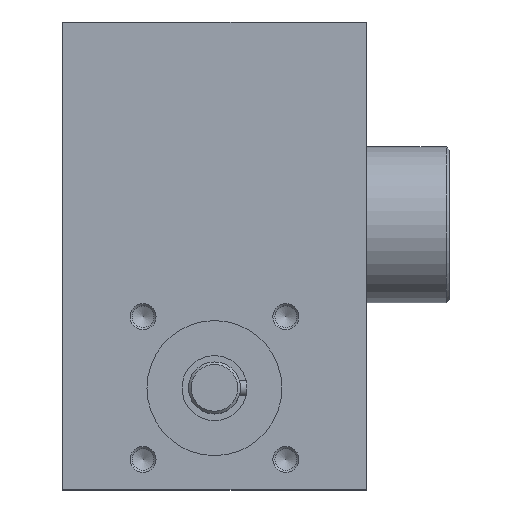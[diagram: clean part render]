
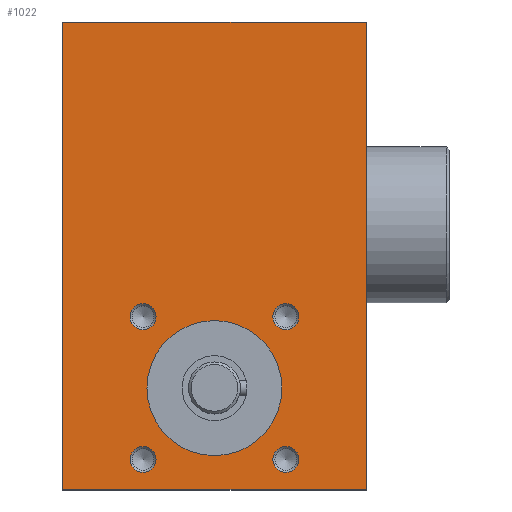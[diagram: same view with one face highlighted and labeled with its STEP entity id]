
A CAD part, top view. The second image highlights one B-rep face of the part: STEP entity #1022.
In plain terms, the highlighted planar face has unit normal (0, 0, 1).
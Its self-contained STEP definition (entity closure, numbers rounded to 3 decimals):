
#71=LINE('',#1619,#99);
#76=LINE('',#1727,#104);
#78=LINE('',#1731,#106);
#79=LINE('',#1732,#107);
#99=VECTOR('',#1256,180.);
#104=VECTOR('',#1393,117.);
#106=VECTOR('',#1397,117.);
#107=VECTOR('',#1398,180.);
#134=PLANE('',#1148);
#181=FACE_BOUND('',#376,.T.);
#182=FACE_BOUND('',#377,.T.);
#183=FACE_BOUND('',#378,.T.);
#184=FACE_BOUND('',#379,.T.);
#185=FACE_BOUND('',#380,.T.);
#254=FACE_OUTER_BOUND('',#375,.T.);
#375=EDGE_LOOP('',(#821,#822,#823,#824));
#376=EDGE_LOOP('',(#825));
#377=EDGE_LOOP('',(#826));
#378=EDGE_LOOP('',(#827));
#379=EDGE_LOOP('',(#828));
#380=EDGE_LOOP('',(#829));
#493=CIRCLE('',#1128,26.);
#503=CIRCLE('',#1149,5.);
#504=CIRCLE('',#1150,5.);
#505=CIRCLE('',#1151,5.);
#506=CIRCLE('',#1152,5.);
#546=VERTEX_POINT('',#1616);
#547=VERTEX_POINT('',#1618);
#572=VERTEX_POINT('',#1691);
#584=VERTEX_POINT('',#1726);
#585=VERTEX_POINT('',#1730);
#586=VERTEX_POINT('',#1733);
#587=VERTEX_POINT('',#1735);
#588=VERTEX_POINT('',#1737);
#589=VERTEX_POINT('',#1739);
#641=EDGE_CURVE('',#547,#546,#71,.T.);
#667=EDGE_CURVE('',#572,#572,#493,.T.);
#680=EDGE_CURVE('',#584,#547,#76,.T.);
#682=EDGE_CURVE('',#546,#585,#78,.T.);
#683=EDGE_CURVE('',#585,#584,#79,.T.);
#684=EDGE_CURVE('',#586,#586,#503,.T.);
#685=EDGE_CURVE('',#587,#587,#504,.T.);
#686=EDGE_CURVE('',#588,#588,#505,.T.);
#687=EDGE_CURVE('',#589,#589,#506,.T.);
#821=ORIENTED_EDGE('',*,*,#641,.T.);
#822=ORIENTED_EDGE('',*,*,#682,.T.);
#823=ORIENTED_EDGE('',*,*,#683,.T.);
#824=ORIENTED_EDGE('',*,*,#680,.T.);
#825=ORIENTED_EDGE('',*,*,#667,.T.);
#826=ORIENTED_EDGE('',*,*,#684,.T.);
#827=ORIENTED_EDGE('',*,*,#685,.T.);
#828=ORIENTED_EDGE('',*,*,#686,.T.);
#829=ORIENTED_EDGE('',*,*,#687,.T.);
#1022=ADVANCED_FACE('',(#254,#181,#182,#183,#184,#185),#134,.T.);
#1128=AXIS2_PLACEMENT_3D('',#1692,#1350,#1351);
#1148=AXIS2_PLACEMENT_3D('',#1729,#1395,#1396);
#1149=AXIS2_PLACEMENT_3D('',#1734,#1399,#1400);
#1150=AXIS2_PLACEMENT_3D('',#1736,#1401,#1402);
#1151=AXIS2_PLACEMENT_3D('',#1738,#1403,#1404);
#1152=AXIS2_PLACEMENT_3D('',#1740,#1405,#1406);
#1256=DIRECTION('',(0.,-1.,0.));
#1350=DIRECTION('center_axis',(0.,0.,-1.));
#1351=DIRECTION('ref_axis',(-1.,0.,0.));
#1393=DIRECTION('',(-1.,0.,0.));
#1395=DIRECTION('center_axis',(0.,0.,1.));
#1396=DIRECTION('ref_axis',(1.,0.,0.));
#1397=DIRECTION('',(1.,0.,0.));
#1398=DIRECTION('',(0.,1.,0.));
#1399=DIRECTION('center_axis',(0.,0.,-1.));
#1400=DIRECTION('ref_axis',(-1.,0.,0.));
#1401=DIRECTION('center_axis',(0.,0.,-1.));
#1402=DIRECTION('ref_axis',(-1.,0.,0.));
#1403=DIRECTION('center_axis',(0.,0.,-1.));
#1404=DIRECTION('ref_axis',(-1.,0.,0.));
#1405=DIRECTION('center_axis',(0.,0.,-1.));
#1406=DIRECTION('ref_axis',(-1.,0.,0.));
#1616=CARTESIAN_POINT('',(0.,-102.,72.5));
#1618=CARTESIAN_POINT('',(0.,78.,72.5));
#1619=CARTESIAN_POINT('',(0.,78.,72.5));
#1691=CARTESIAN_POINT('',(32.5,-63.,72.5));
#1692=CARTESIAN_POINT('Origin',(58.5,-63.,72.5));
#1726=CARTESIAN_POINT('',(117.,78.,72.5));
#1727=CARTESIAN_POINT('',(117.,78.,72.5));
#1729=CARTESIAN_POINT('Origin',(0.,0.,72.5));
#1730=CARTESIAN_POINT('',(117.,-102.,72.5));
#1731=CARTESIAN_POINT('',(0.,-102.,72.5));
#1732=CARTESIAN_POINT('',(117.,-102.,72.5));
#1733=CARTESIAN_POINT('',(81.,-90.5,72.5));
#1734=CARTESIAN_POINT('Origin',(86.,-90.5,72.5));
#1735=CARTESIAN_POINT('',(26.,-35.5,72.5));
#1736=CARTESIAN_POINT('Origin',(31.,-35.5,72.5));
#1737=CARTESIAN_POINT('',(81.,-35.5,72.5));
#1738=CARTESIAN_POINT('Origin',(86.,-35.5,72.5));
#1739=CARTESIAN_POINT('',(26.,-90.5,72.5));
#1740=CARTESIAN_POINT('Origin',(31.,-90.5,72.5));
